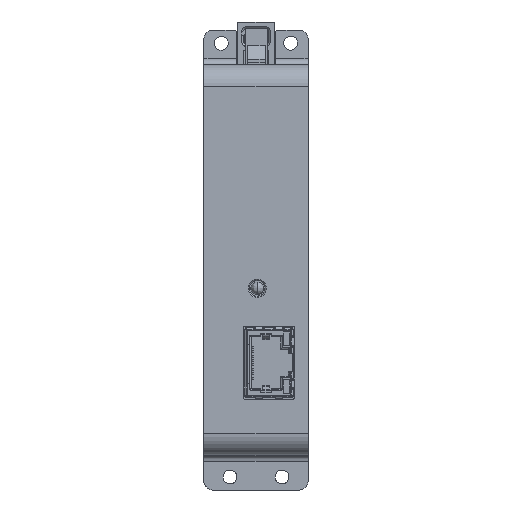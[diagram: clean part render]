
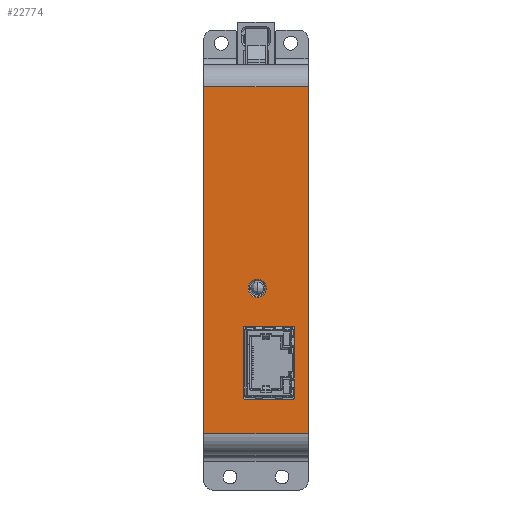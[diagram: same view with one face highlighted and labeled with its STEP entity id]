
A CAD part, front view. The second image highlights one B-rep face of the part: STEP entity #22774.
In plain terms, the highlighted planar face has unit normal (0, -1, 0).
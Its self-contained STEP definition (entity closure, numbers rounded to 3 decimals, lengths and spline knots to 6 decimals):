
#608=DIRECTION('',(0.,0.,-1.));
#609=VECTOR('',#608,0.01588);
#610=CARTESIAN_POINT('',(0.00905,-0.035,-0.015734));
#611=LINE('',#610,#609);
#612=CARTESIAN_POINT('',(0.01227,-0.035,-0.0065));
#613=DIRECTION('',(0.,1.,0.));
#614=DIRECTION('',(0.,0.,-1.));
#615=AXIS2_PLACEMENT_3D('',#612,#613,#614);
#617=CARTESIAN_POINT('',(0.01227,-0.035,-0.0065));
#618=DIRECTION('',(0.,1.,0.));
#619=DIRECTION('',(0.,0.,1.));
#620=AXIS2_PLACEMENT_3D('',#617,#618,#619);
#622=CARTESIAN_POINT('',(0.0204,-0.035,-0.031614));
#623=DIRECTION('',(0.,1.,0.));
#624=DIRECTION('',(1.,0.,0.));
#625=AXIS2_PLACEMENT_3D('',#622,#623,#624);
#627=CARTESIAN_POINT('',(0.0204,-0.035,-0.015734));
#628=DIRECTION('',(0.,1.,0.));
#629=DIRECTION('',(0.,0.,1.));
#630=AXIS2_PLACEMENT_3D('',#627,#628,#629);
#632=CARTESIAN_POINT('',(0.00955,-0.035,-0.015734));
#633=DIRECTION('',(0.,1.,0.));
#634=DIRECTION('',(-1.,0.,0.));
#635=AXIS2_PLACEMENT_3D('',#632,#633,#634);
#637=CARTESIAN_POINT('',(0.00955,-0.035,-0.031614));
#638=DIRECTION('',(0.,1.,0.));
#639=DIRECTION('',(0.,0.,-1.));
#640=AXIS2_PLACEMENT_3D('',#637,#638,#639);
#642=DIRECTION('',(0.,0.,1.));
#643=VECTOR('',#642,0.08);
#644=CARTESIAN_POINT('',(0.024,-0.035,-0.04));
#645=LINE('',#644,#643);
#646=DIRECTION('',(0.,0.,-1.));
#647=VECTOR('',#646,0.08);
#648=CARTESIAN_POINT('',(0.,-0.035,0.04));
#649=LINE('',#648,#647);
#1472=DIRECTION('',(-1.,0.,0.));
#1473=VECTOR('',#1472,0.024);
#1474=CARTESIAN_POINT('',(0.024,-0.035,-0.04));
#1475=LINE('',#1474,#1473);
#2539=DIRECTION('',(1.,0.,0.));
#2540=VECTOR('',#2539,0.024);
#2541=CARTESIAN_POINT('',(0.,-0.035,0.04));
#2542=LINE('',#2541,#2540);
#7982=DIRECTION('',(0.,0.,1.));
#7983=VECTOR('',#7982,0.01588);
#7984=CARTESIAN_POINT('',(0.0209,-0.035,-0.031614));
#7985=LINE('',#7984,#7983);
#8042=DIRECTION('',(-1.,0.,0.));
#8043=VECTOR('',#8042,0.01085);
#8044=CARTESIAN_POINT('',(0.0204,-0.035,-0.015234));
#8045=LINE('',#8044,#8043);
#14633=DIRECTION('',(1.,0.,0.));
#14634=VECTOR('',#14633,0.01085);
#14635=CARTESIAN_POINT('',(0.00955,-0.035,-0.032114));
#14636=LINE('',#14635,#14634);
#17007=CARTESIAN_POINT('',(0.,-0.035,0.04));
#17008=VERTEX_POINT('',#17007);
#17009=CARTESIAN_POINT('',(0.,-0.035,-0.04));
#17010=VERTEX_POINT('',#17009);
#17055=CARTESIAN_POINT('',(0.024,-0.035,-0.04));
#17056=VERTEX_POINT('',#17055);
#17057=CARTESIAN_POINT('',(0.024,-0.035,0.04));
#17058=VERTEX_POINT('',#17057);
#17313=CARTESIAN_POINT('',(0.0209,-0.035,-0.031614));
#17314=CARTESIAN_POINT('',(0.0209,-0.035,-0.015734));
#17315=VERTEX_POINT('',#17313);
#17316=VERTEX_POINT('',#17314);
#17317=CARTESIAN_POINT('',(0.0204,-0.035,-0.015234));
#17318=VERTEX_POINT('',#17317);
#17319=CARTESIAN_POINT('',(0.00955,-0.035,-0.015234));
#17320=VERTEX_POINT('',#17319);
#17321=CARTESIAN_POINT('',(0.00905,-0.035,-0.015734));
#17322=VERTEX_POINT('',#17321);
#17323=CARTESIAN_POINT('',(0.00905,-0.035,-0.031614));
#17324=VERTEX_POINT('',#17323);
#17325=CARTESIAN_POINT('',(0.00955,-0.035,-0.032114));
#17326=VERTEX_POINT('',#17325);
#17327=CARTESIAN_POINT('',(0.0204,-0.035,-0.032114));
#17328=VERTEX_POINT('',#17327);
#17329=CARTESIAN_POINT('',(0.01227,-0.035,-0.0044));
#17330=CARTESIAN_POINT('',(0.01227,-0.035,-0.0086));
#17331=VERTEX_POINT('',#17329);
#17332=VERTEX_POINT('',#17330);
#22737=CARTESIAN_POINT('',(0.,-0.035,0.053));
#22738=DIRECTION('',(0.,-1.,0.));
#22739=DIRECTION('',(0.,0.,-1.));
#22740=AXIS2_PLACEMENT_3D('',#22737,#22738,#22739);
#22741=PLANE('',#22740);
#22743=ORIENTED_EDGE('',*,*,#22742,.F.);
#22745=ORIENTED_EDGE('',*,*,#22744,.T.);
#22747=ORIENTED_EDGE('',*,*,#22746,.F.);
#22749=ORIENTED_EDGE('',*,*,#22748,.T.);
#22750=EDGE_LOOP('',(#22743,#22745,#22747,#22749));
#22751=FACE_OUTER_BOUND('',#22750,.F.);
#22753=ORIENTED_EDGE('',*,*,#22752,.F.);
#22755=ORIENTED_EDGE('',*,*,#22754,.T.);
#22757=ORIENTED_EDGE('',*,*,#22756,.F.);
#22759=ORIENTED_EDGE('',*,*,#22758,.T.);
#22760=ORIENTED_EDGE('',*,*,#22716,.F.);
#22761=ORIENTED_EDGE('',*,*,#22728,.T.);
#22763=ORIENTED_EDGE('',*,*,#22762,.F.);
#22765=ORIENTED_EDGE('',*,*,#22764,.T.);
#22766=EDGE_LOOP('',(#22753,#22755,#22757,#22759,#22760,#22761,#22763,#22765));
#22767=FACE_BOUND('',#22766,.F.);
#22769=ORIENTED_EDGE('',*,*,#22768,.F.);
#22771=ORIENTED_EDGE('',*,*,#22770,.F.);
#22772=EDGE_LOOP('',(#22769,#22771));
#22773=FACE_BOUND('',#22772,.F.);
#22774=ADVANCED_FACE('',(#22751,#22767,#22773),#22741,.T.);
#616=CIRCLE('',#615,0.0021);
#621=CIRCLE('',#620,0.0021);
#626=CIRCLE('',#625,0.0005);
#631=CIRCLE('',#630,0.0005);
#636=CIRCLE('',#635,0.0005);
#641=CIRCLE('',#640,0.0005);
#22716=EDGE_CURVE('',#17322,#17320,#636,.T.);
#22728=EDGE_CURVE('',#17322,#17324,#611,.T.);
#22742=EDGE_CURVE('',#17056,#17058,#645,.T.);
#22744=EDGE_CURVE('',#17056,#17010,#1475,.T.);
#22746=EDGE_CURVE('',#17008,#17010,#649,.T.);
#22748=EDGE_CURVE('',#17008,#17058,#2542,.T.);
#22752=EDGE_CURVE('',#17315,#17328,#626,.T.);
#22754=EDGE_CURVE('',#17315,#17316,#7985,.T.);
#22756=EDGE_CURVE('',#17318,#17316,#631,.T.);
#22758=EDGE_CURVE('',#17318,#17320,#8045,.T.);
#22762=EDGE_CURVE('',#17326,#17324,#641,.T.);
#22764=EDGE_CURVE('',#17326,#17328,#14636,.T.);
#22768=EDGE_CURVE('',#17332,#17331,#616,.T.);
#22770=EDGE_CURVE('',#17331,#17332,#621,.T.);
